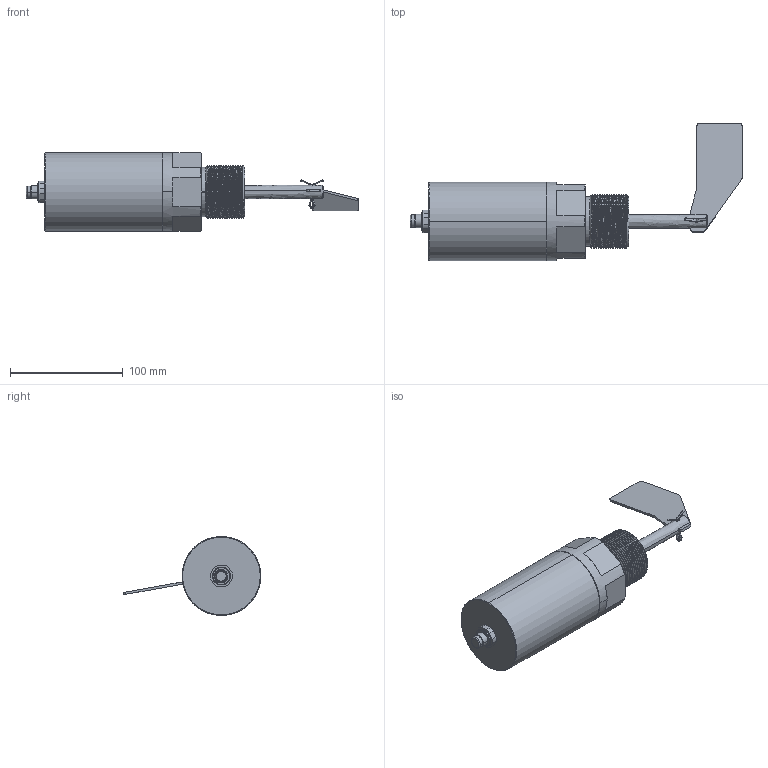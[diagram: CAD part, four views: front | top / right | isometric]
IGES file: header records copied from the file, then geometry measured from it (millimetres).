
Start section: SolidWorks IGES file using analytic representation for surfaces
Global section: file name: C:\Users\Äîì\Desktop\Äàò÷èêè ìîäåëè\P3 220VAC\Íîâàÿ ïàïêà\MBA888_230V ðåçüáà.STP.IGS; native system: SolidWorks 2020; preprocessor: SolidWorks 2020; author: Äîì; date: 210221.234853; units: millimetre
Bounding box: 295 x 122.28 x 70 mm (x, y, z)
Surface area: 101156.7 mm2 (no closed solid volume)
Topology: 0 solids, 0 shells, 291 faces, 4947 edges, 4943 vertices
Faces by surface type: revolution 177, bspline 114
